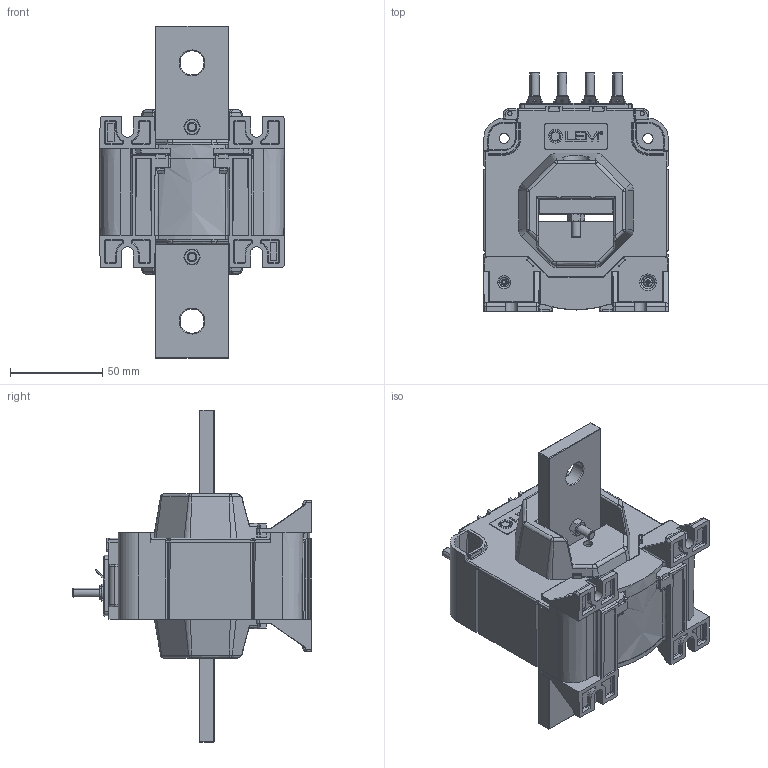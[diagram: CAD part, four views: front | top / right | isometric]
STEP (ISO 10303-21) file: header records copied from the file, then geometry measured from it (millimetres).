
FILE_DESCRIPTION(('Creo Elements/Direct Modeling STEP Export'),'2;1');
FILE_NAME('90.B2.52.019.0_20170930.stp','2017-09-30T 9:53:37',(''),(''),'PTC Creo Elements/Direct Modeling STEP processor for AP214 (Solid Model)','PTC Creo Elements/Direct Modeling 19.0B 21-Mar-2015 (C) Parametric Technology GmbH','');
FILE_SCHEMA(('AUTOMOTIVE_DESIGN { 1 0 10303 214 1 1 1 1 }'));
Products named in the file (2): 90.B2.52.019.0_20170930
Assembly tree (1 placements, depth 2):
  90.B2.52.019.0_20170930
    90.B2.52.019.0_20170930
Bounding box: 100.14 x 130 x 180 mm (x, y, z)
Volume: 475374.6 mm3; surface area: 147957.1 mm2
Topology: 1 solids, 3 shells, 3953 faces, 10561 edges, 6525 vertices
Faces by surface type: plane 1628, cylinder 905, bspline 744, cone 273, extrusion 229, torus 150, sphere 24
Entity records: 217812 total; most frequent: CARTESIAN_POINT 119982, ORIENTED_EDGE 20922, DIRECTION 14194, EDGE_CURVE 10455, VERTEX_POINT 6525, VECTOR 5270, LINE 5045, AXIS2_PLACEMENT_3D 4462
